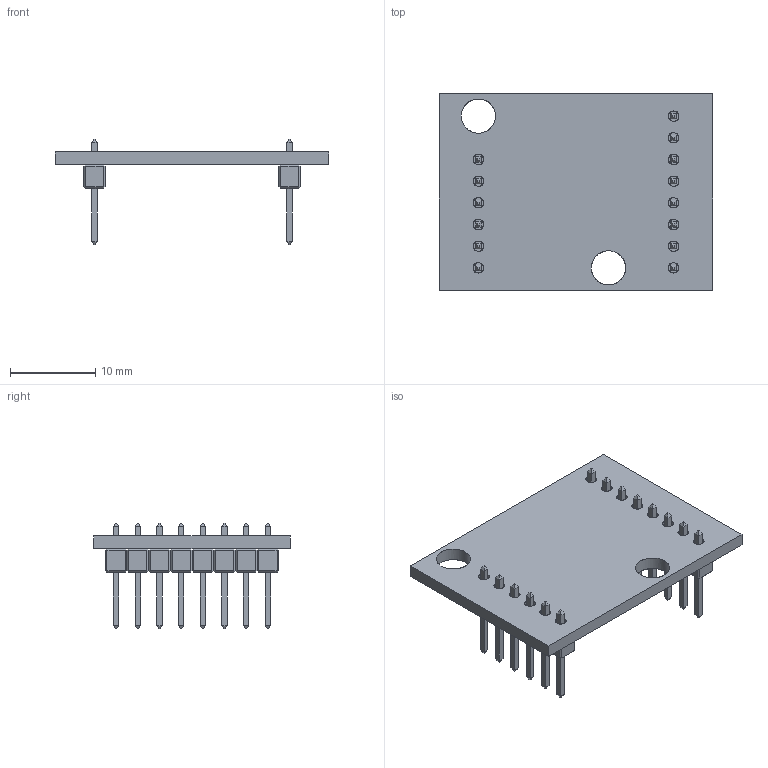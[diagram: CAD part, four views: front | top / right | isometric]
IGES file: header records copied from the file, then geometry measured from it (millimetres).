
Global section: file name: D:\Daten-Huge\PLM_Export\Huellen_aufbr\20120713_fuer_Vertrieb\SC1801P.igs; native system: NX V7.5; preprocessor: SIEMENS PLM Software NX 7.5; author: DR. FRITZ FAULHABER GmbH & Co. KG; organization: DR. FRITZ FAULHABER GmbH & Co. KG; date: 20120713.135231; units: millimetre
Bounding box: 32 x 23 x 12.4 mm (x, y, z)
Surface area: 2300 mm2 (no closed solid volume)
Topology: 0 solids, 0 shells, 614 faces, 2608 edges, 2584 vertices
Faces by surface type: bspline 614
